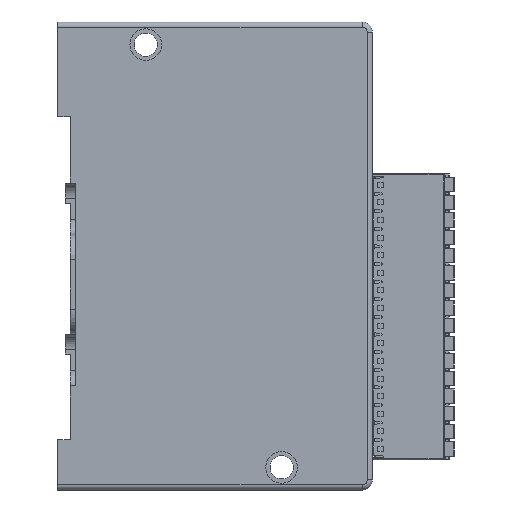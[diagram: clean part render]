
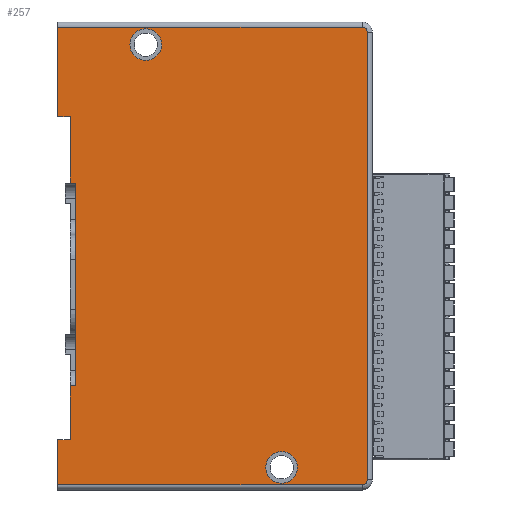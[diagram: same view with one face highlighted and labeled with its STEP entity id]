
A CAD part, left-side view. The second image highlights one B-rep face of the part: STEP entity #257.
In plain terms, the highlighted planar face has unit normal (-1, 0, 0).
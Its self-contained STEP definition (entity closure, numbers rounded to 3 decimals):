
#257=ADVANCED_FACE('',(#3957,#3958,#3959),#3956,.T.);
#3956=PLANE('',#21347);
#3957=FACE_OUTER_BOUND('',#21348,.T.);
#3958=FACE_BOUND('',#21349,.T.);
#3959=FACE_BOUND('',#21350,.T.);
#21344=CARTESIAN_POINT('',(0.,-73.25,-38.9));
#21345=DIRECTION('',(-1.,0.,0.));
#21346=DIRECTION('',(0.,0.,1.));
#21347=AXIS2_PLACEMENT_3D('',#21344,#21345,#21346);
#21348=EDGE_LOOP('',(#32462,#32463,#32464,#32465,#32466,#32467,#32468,#32469,#32470,#32471,#32472,#32473,#32474,#32475));
#21349=EDGE_LOOP('',(#32476,#32477));
#21350=EDGE_LOOP('',(#32478,#32479));
#32462=ORIENTED_EDGE('',*,*,#41214,.F.);
#32463=ORIENTED_EDGE('',*,*,#41134,.F.);
#32464=ORIENTED_EDGE('',*,*,#41136,.F.);
#32465=ORIENTED_EDGE('',*,*,#41089,.T.);
#32466=ORIENTED_EDGE('',*,*,#41237,.F.);
#32467=ORIENTED_EDGE('',*,*,#41238,.F.);
#32468=ORIENTED_EDGE('',*,*,#41243,.F.);
#32469=ORIENTED_EDGE('',*,*,#41250,.T.);
#32470=ORIENTED_EDGE('',*,*,#41251,.T.);
#32471=ORIENTED_EDGE('',*,*,#41252,.T.);
#32472=ORIENTED_EDGE('',*,*,#41253,.T.);
#32473=ORIENTED_EDGE('',*,*,#41254,.T.);
#32474=ORIENTED_EDGE('',*,*,#41206,.F.);
#32475=ORIENTED_EDGE('',*,*,#41211,.F.);
#32476=ORIENTED_EDGE('',*,*,#41255,.F.);
#32477=ORIENTED_EDGE('',*,*,#41256,.F.);
#32478=ORIENTED_EDGE('',*,*,#41257,.F.);
#32479=ORIENTED_EDGE('',*,*,#41258,.F.);
#41089=EDGE_CURVE('',#49445,#49446,#49447,.T.);
#41134=EDGE_CURVE('',#49742,#49749,#49750,.T.);
#41136=EDGE_CURVE('',#49445,#49742,#49762,.T.);
#41206=EDGE_CURVE('',#50232,#50233,#50234,.T.);
#41211=EDGE_CURVE('',#50266,#50232,#50267,.T.);
#41214=EDGE_CURVE('',#49749,#50266,#50286,.T.);
#41237=EDGE_CURVE('',#50431,#49446,#50438,.T.);
#41238=EDGE_CURVE('',#50444,#50431,#50445,.T.);
#41243=EDGE_CURVE('',#50472,#50444,#50479,.T.);
#41250=EDGE_CURVE('',#50472,#50522,#50523,.T.);
#41251=EDGE_CURVE('',#50522,#50529,#50530,.T.);
#41252=EDGE_CURVE('',#50529,#50536,#50537,.T.);
#41253=EDGE_CURVE('',#50536,#50543,#50544,.T.);
#41254=EDGE_CURVE('',#50543,#50233,#50550,.T.);
#41255=EDGE_CURVE('',#50556,#50557,#50558,.T.);
#41256=EDGE_CURVE('',#50557,#50556,#50564,.T.);
#41257=EDGE_CURVE('',#50570,#50571,#50572,.T.);
#41258=EDGE_CURVE('',#50571,#50570,#50578,.T.);
#49445=VERTEX_POINT('',#77896);
#49446=VERTEX_POINT('',#77897);
#49447=LINE('',#77898,#77899);
#49742=VERTEX_POINT('',#78074);
#49749=VERTEX_POINT('',#78078);
#49750=LINE('',#78079,#78080);
#49762=LINE('',#78085,#78086);
#50232=VERTEX_POINT('',#78353);
#50233=VERTEX_POINT('',#78354);
#50234=LINE('',#78355,#78356);
#50266=VERTEX_POINT('',#78374);
#50267=LINE('',#78375,#78376);
#50286=LINE('',#78385,#78386);
#50431=VERTEX_POINT('',#78468);
#50438=LINE('',#78472,#78473);
#50444=VERTEX_POINT('',#78475);
#50445=LINE('',#78476,#78477);
#50472=VERTEX_POINT('',#78491);
#50479=LINE('',#78496,#78497);
#50522=VERTEX_POINT('',#78519);
#50523=LINE('',#78520,#78521);
#50529=VERTEX_POINT('',#78523);
#50530=CIRCLE('',#78527,1.);
#50536=VERTEX_POINT('',#78528);
#50537=LINE('',#78529,#78530);
#50543=VERTEX_POINT('',#78532);
#50544=CIRCLE('',#78536,1.);
#50550=LINE('',#78537,#78538);
#50556=VERTEX_POINT('',#78540);
#50557=VERTEX_POINT('',#78541);
#50558=CIRCLE('',#78545,3.15);
#50564=CIRCLE('',#78549,3.15);
#50570=VERTEX_POINT('',#78550);
#50571=VERTEX_POINT('',#78551);
#50572=CIRCLE('',#78555,3.15);
#50578=CIRCLE('',#78559,3.15);
#77896=CARTESIAN_POINT('',(0.,-9.1,-10.1));
#77897=CARTESIAN_POINT('',(0.,-8.1,-10.1));
#77898=CARTESIAN_POINT('',(0.,-9.1,-10.1));
#77899=VECTOR('',#77900,1.);
#77900=DIRECTION('',(0.,1.,0.));
#78074=CARTESIAN_POINT('',(0.,-9.1,30.2));
#78078=CARTESIAN_POINT('',(0.,-8.1,30.2));
#78079=CARTESIAN_POINT('',(0.,-9.1,30.2));
#78080=VECTOR('',#78081,1.);
#78081=DIRECTION('',(0.,1.,0.));
#78085=CARTESIAN_POINT('',(0.,-9.1,-10.1));
#78086=VECTOR('',#78087,40.3);
#78087=DIRECTION('',(0.,0.,1.));
#78353=CARTESIAN_POINT('',(0.,-5.6,43.4));
#78354=CARTESIAN_POINT('',(0.,-5.6,61.2));
#78355=CARTESIAN_POINT('',(0.,-5.6,43.4));
#78356=VECTOR('',#78357,17.8);
#78357=DIRECTION('',(0.,0.,1.));
#78374=CARTESIAN_POINT('',(0.,-8.1,43.4));
#78375=CARTESIAN_POINT('',(0.,-8.1,43.4));
#78376=VECTOR('',#78377,2.5);
#78377=DIRECTION('',(0.,1.,0.));
#78385=CARTESIAN_POINT('',(0.,-8.1,30.2));
#78386=VECTOR('',#78387,13.2);
#78387=DIRECTION('',(0.,0.,1.));
#78468=CARTESIAN_POINT('',(0.,-8.1,-20.8));
#78472=CARTESIAN_POINT('',(0.,-8.1,-20.8));
#78473=VECTOR('',#78474,10.7);
#78474=DIRECTION('',(0.,0.,1.));
#78475=CARTESIAN_POINT('',(0.,-5.6,-20.8));
#78476=CARTESIAN_POINT('',(0.,-5.6,-20.8));
#78477=VECTOR('',#78478,2.5);
#78478=DIRECTION('',(0.,-1.,0.));
#78491=CARTESIAN_POINT('',(0.,-5.6,-29.8));
#78496=CARTESIAN_POINT('',(0.,-5.6,-29.8));
#78497=VECTOR('',#78498,9.);
#78498=DIRECTION('',(0.,0.,1.));
#78519=CARTESIAN_POINT('',(0.,-66.1,-29.8));
#78520=CARTESIAN_POINT('',(0.,-5.6,-29.8));
#78521=VECTOR('',#78522,60.5);
#78522=DIRECTION('',(0.,-1.,0.));
#78523=CARTESIAN_POINT('',(0.,-67.1,-28.8));
#78524=CARTESIAN_POINT('',(0.,-66.1,-28.8));
#78525=DIRECTION('',(-1.,0.,0.));
#78526=DIRECTION('',(0.,0.,-1.));
#78527=AXIS2_PLACEMENT_3D('',#78524,#78525,#78526);
#78528=CARTESIAN_POINT('',(0.,-67.1,60.2));
#78529=CARTESIAN_POINT('',(0.,-67.1,-28.8));
#78530=VECTOR('',#78531,89.);
#78531=DIRECTION('',(0.,0.,1.));
#78532=CARTESIAN_POINT('',(0.,-66.1,61.2));
#78533=CARTESIAN_POINT('',(0.,-66.1,60.2));
#78534=DIRECTION('',(-1.,0.,0.));
#78535=DIRECTION('',(0.,0.,-1.));
#78536=AXIS2_PLACEMENT_3D('',#78533,#78534,#78535);
#78537=CARTESIAN_POINT('',(0.,-66.1,61.2));
#78538=VECTOR('',#78539,60.5);
#78539=DIRECTION('',(0.,1.,0.));
#78540=CARTESIAN_POINT('',(0.,-50.1,-23.15));
#78541=CARTESIAN_POINT('',(0.,-50.1,-29.45));
#78542=CARTESIAN_POINT('',(0.,-50.1,-26.3));
#78543=DIRECTION('',(-1.,0.,0.));
#78544=DIRECTION('',(0.,0.,-1.));
#78545=AXIS2_PLACEMENT_3D('',#78542,#78543,#78544);
#78546=CARTESIAN_POINT('',(0.,-50.1,-26.3));
#78547=DIRECTION('',(-1.,0.,0.));
#78548=DIRECTION('',(0.,0.,-1.));
#78549=AXIS2_PLACEMENT_3D('',#78546,#78547,#78548);
#78550=CARTESIAN_POINT('',(0.,-23.1,60.85));
#78551=CARTESIAN_POINT('',(0.,-23.1,54.55));
#78552=CARTESIAN_POINT('',(0.,-23.1,57.7));
#78553=DIRECTION('',(-1.,0.,0.));
#78554=DIRECTION('',(0.,0.,-1.));
#78555=AXIS2_PLACEMENT_3D('',#78552,#78553,#78554);
#78556=CARTESIAN_POINT('',(0.,-23.1,57.7));
#78557=DIRECTION('',(-1.,0.,0.));
#78558=DIRECTION('',(0.,0.,-1.));
#78559=AXIS2_PLACEMENT_3D('',#78556,#78557,#78558);
